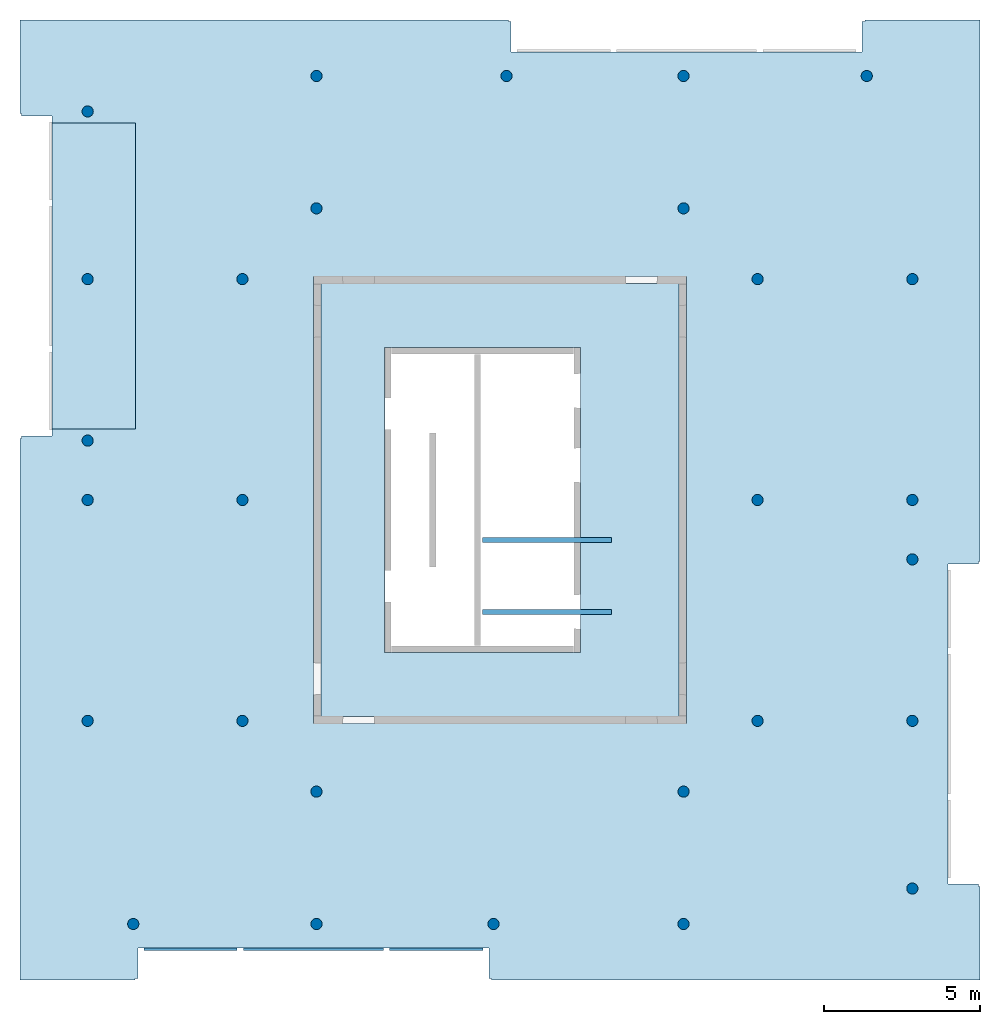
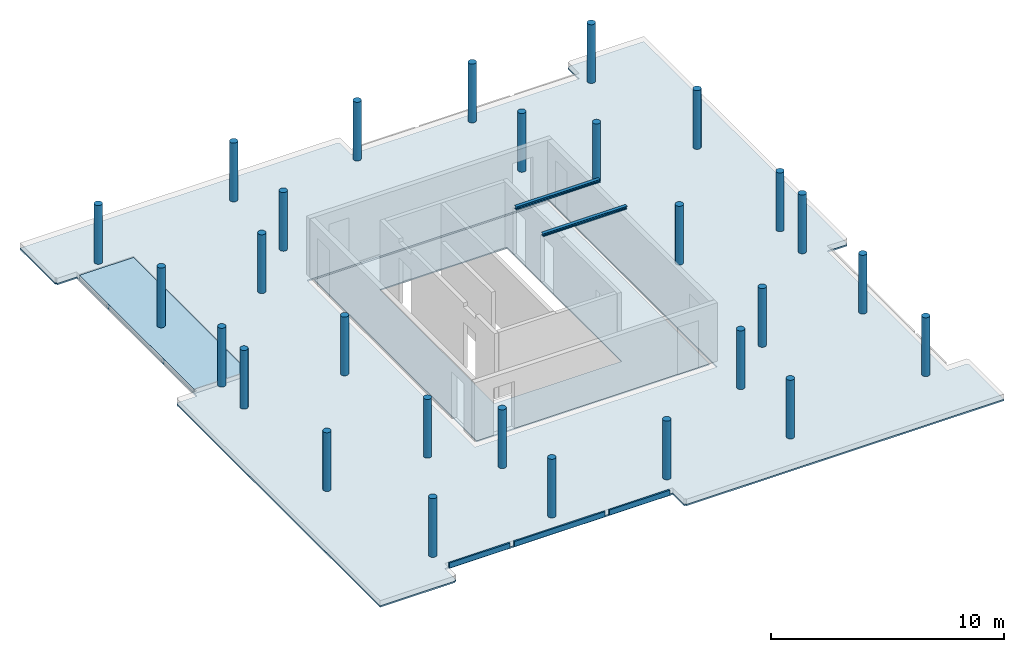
# One storey, part 1 of 3: 28 columns, 3 slabs, 3 walls, 2 beams, 2 openings.
"""IFC2X3 building model written with IfcOpenShell, lengths in millimetres."""

from ifc_helpers import new_model, entity, si_unit, converted_unit, derived_unit, direction, frame, frame_2d, origin, origin_2d_with_axis, place, context, subcontext, project, spatial, polyline, rectangle, circle, i_section, outline, extrude, source, transform, mapped, material, layer, layer_set, layer_usage, type_object, type_shapes, element, save


model = new_model("IFC2X3")

# Units and contexts
model_context = context("Model", 3, precision=0.01, world=origin(), true_north=direction((6.12303176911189e-17, 1.0)))
body_context = subcontext(model_context, "Body", "Model", "MODEL_VIEW")
ifc_project = project(units=[si_unit("LENGTHUNIT", "METRE", prefix="MILLI"), si_unit("AREAUNIT", "SQUARE_METRE"), si_unit("VOLUMEUNIT", "CUBIC_METRE"), converted_unit("PLANEANGLEUNIT", "DEGREE", entity("IfcRatioMeasure", 0.0174532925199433), si_unit("PLANEANGLEUNIT", "RADIAN"), dimensions=[0, 0, 0, 0, 0, 0, 0]), si_unit("MASSUNIT", "GRAM", prefix="KILO"), derived_unit("MASSDENSITYUNIT", [(si_unit("MASSUNIT", "GRAM", prefix="KILO"), 1), (si_unit("LENGTHUNIT", "METRE"), -3)]), si_unit("TIMEUNIT", "SECOND"), si_unit("FREQUENCYUNIT", "HERTZ"), si_unit("THERMODYNAMICTEMPERATUREUNIT", "DEGREE_CELSIUS"), derived_unit("THERMALTRANSMITTANCEUNIT", [(si_unit("MASSUNIT", "GRAM", prefix="KILO"), 1), (si_unit("THERMODYNAMICTEMPERATUREUNIT", "KELVIN"), -1), (si_unit("TIMEUNIT", "SECOND"), -3)]), derived_unit("VOLUMETRICFLOWRATEUNIT", [(si_unit("LENGTHUNIT", "METRE"), 3), (si_unit("TIMEUNIT", "SECOND"), -1)]), si_unit("ELECTRICCURRENTUNIT", "AMPERE"), si_unit("ELECTRICVOLTAGEUNIT", "VOLT"), si_unit("POWERUNIT", "WATT"), si_unit("FORCEUNIT", "NEWTON", prefix="KILO"), si_unit("ILLUMINANCEUNIT", "LUX"), si_unit("LUMINOUSFLUXUNIT", "LUMEN"), si_unit("LUMINOUSINTENSITYUNIT", "CANDELA"), derived_unit("USERDEFINED", [(si_unit("MASSUNIT", "GRAM", prefix="KILO"), -1), (si_unit("LENGTHUNIT", "METRE"), -2), (si_unit("TIMEUNIT", "SECOND"), 3), (si_unit("LUMINOUSFLUXUNIT", "LUMEN"), 1)]), derived_unit("LINEARVELOCITYUNIT", [(si_unit("LENGTHUNIT", "METRE"), 1), (si_unit("TIMEUNIT", "SECOND"), -1)]), si_unit("PRESSUREUNIT", "PASCAL"), derived_unit("USERDEFINED", [(si_unit("LENGTHUNIT", "METRE"), -2), (si_unit("MASSUNIT", "GRAM", prefix="KILO"), 1), (si_unit("TIMEUNIT", "SECOND"), -2)])], contexts=[model_context])

# Site, building, storey
site_placement = place(None, origin())
site = spatial("IfcSite", under=ifc_project, at=site_placement, Name="Default", CompositionType="ELEMENT")
building_placement = place(site_placement, origin())
building = spatial("IfcBuilding", under=site, at=building_placement, Name="niet gebruiken", CompositionType="ELEMENT")
storey_placement = place(building_placement, frame((0.0, 0.0, 171740.0)))
storey = spatial("IfcBuildingStorey", under=building, at=storey_placement, Name="55 vijfenvijftigste verdieping", CompositionType="ELEMENT", Elevation=171740.0)

# Columns
ifc_material_1 = material(Name="NLRS_f2_beton prefab")
column_type_1 = type_object("IfcColumnType", Name="ø360", PredefinedType="COLUMN", material=ifc_material_1)
shared_shape_1 = source(origin(), body_context, "Body", "SweptSolid", [
    extrude(circle(Radius=179.999999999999, at=origin_2d_with_axis()), frame((135850.0, 31130.0, 171670.0), z_axis=(0.0, 0.0, 1.0), x_axis=(0.0, -1.0, 0.0)), (0.0, 0.0, 1.0), 3070.0),
])
type_shapes(column_type_1, [shared_shape_1])
column_1_placement = place(storey_placement, frame((0.0, 0.0, -171740.0)))
element("IfcColumn", 1, at=column_1_placement, inside=storey, type_object=column_type_1, material=ifc_material_1, Name="NLRS_28. kolom rond_gen:ø360", ObjectType="ø360", context=body_context, shape_type="MappedRepresentation", body=[
    mapped(shared_shape_1, transform((0.0, 0.0, 0.0), scale=1.0)),
])
column_type_2 = type_object("IfcColumnType", Name="ø360", PredefinedType="COLUMN", material=ifc_material_1)
shared_shape_2 = source(origin(), body_context, "Body", "SweptSolid", [
    extrude(circle(Radius=179.999999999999, at=origin_2d_with_axis()), frame((141960.0, 31130.0, 171670.0), z_axis=(0.0, 0.0, 1.0), x_axis=(0.0, -1.0, 0.0)), (0.0, 0.0, 1.0), 3070.0),
])
type_shapes(column_type_2, [shared_shape_2])
column_2_placement = place(storey_placement, frame((0.0, 0.0, -171740.0)))
element("IfcColumn", 2, at=column_2_placement, inside=storey, type_object=column_type_2, material=ifc_material_1, Name="NLRS_28. kolom rond_gen:ø360", ObjectType="ø360", context=body_context, shape_type="MappedRepresentation", body=[
    mapped(shared_shape_2, transform((0.0, 0.0, 0.0), scale=1.0)),
])
column_type_3 = type_object("IfcColumnType", Name="ø360", PredefinedType="COLUMN", material=ifc_material_1)
shared_shape_3 = source(origin(), body_context, "Body", "SweptSolid", [
    extrude(circle(Radius=179.999999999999, at=origin_2d_with_axis()), frame((147650.0, 31130.0, 171670.0), z_axis=(0.0, 0.0, 1.0), x_axis=(0.0, -1.0, 0.0)), (0.0, 0.0, 1.0), 3070.0),
])
type_shapes(column_type_3, [shared_shape_3])
column_3_placement = place(storey_placement, frame((0.0, 0.0, -171740.0)))
element("IfcColumn", 3, at=column_3_placement, inside=storey, type_object=column_type_3, material=ifc_material_1, Name="NLRS_28. kolom rond_gen:ø360", ObjectType="ø360", context=body_context, shape_type="MappedRepresentation", body=[
    mapped(shared_shape_3, transform((0.0, 0.0, 0.0), scale=1.0)),
])
column_type_4 = type_object("IfcColumnType", Name="ø360", PredefinedType="COLUMN", material=ifc_material_1)
shared_shape_4 = source(origin(), body_context, "Body", "SweptSolid", [
    extrude(circle(Radius=179.999999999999, at=origin_2d_with_axis()), frame((153540.0, 31130.0, 171670.0), z_axis=(0.0, 0.0, 1.0), x_axis=(0.0, -1.0, 0.0)), (0.0, 0.0, 1.0), 3070.0),
])
type_shapes(column_type_4, [shared_shape_4])
column_4_placement = place(storey_placement, frame((0.0, 0.0, -171740.0)))
element("IfcColumn", 4, at=column_4_placement, inside=storey, type_object=column_type_4, material=ifc_material_1, Name="NLRS_28. kolom rond_gen:ø360", ObjectType="ø360", context=body_context, shape_type="MappedRepresentation", body=[
    mapped(shared_shape_4, transform((0.0, 0.0, 0.0), scale=1.0)),
])
column_type_5 = type_object("IfcColumnType", Name="ø360", PredefinedType="COLUMN", material=ifc_material_1)
shared_shape_5 = source(origin(), body_context, "Body", "SweptSolid", [
    extrude(circle(Radius=179.999999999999, at=origin_2d_with_axis()), frame((133470.0, 24600.0, 171670.0), z_axis=(0.0, 0.0, 1.0), x_axis=(0.0, -1.0, 0.0)), (0.0, 0.0, 1.0), 3070.0),
])
type_shapes(column_type_5, [shared_shape_5])
column_5_placement = place(storey_placement, frame((0.0, 0.0, -171740.0)))
element("IfcColumn", 5, at=column_5_placement, inside=storey, type_object=column_type_5, material=ifc_material_1, Name="NLRS_28. kolom rond_gen:ø360", ObjectType="ø360", context=body_context, shape_type="MappedRepresentation", body=[
    mapped(shared_shape_5, transform((0.0, 0.0, 0.0), scale=1.0)),
])
column_type_6 = type_object("IfcColumnType", Name="ø360", PredefinedType="COLUMN", material=ifc_material_1)
shared_shape_6 = source(origin(), body_context, "Body", "SweptSolid", [
    extrude(circle(Radius=179.999999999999, at=origin_2d_with_axis()), frame((128495.0, 24600.0, 171620.0), z_axis=(0.0, 0.0, 1.0), x_axis=(0.0, -1.0, 0.0)), (0.0, 0.0, 1.0), 3119.99999999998),
])
type_shapes(column_type_6, [shared_shape_6])
column_6_placement = place(storey_placement, frame((0.0, 0.0, -171740.0)))
element("IfcColumn", 6, at=column_6_placement, inside=storey, type_object=column_type_6, material=ifc_material_1, Name="NLRS_28. kolom rond_gen:ø360", ObjectType="ø360", context=body_context, shape_type="MappedRepresentation", body=[
    mapped(shared_shape_6, transform((0.0, 0.0, 0.0), scale=1.0)),
])
column_type_7 = type_object("IfcColumnType", Name="ø360", PredefinedType="COLUMN", material=ifc_material_1)
shared_shape_7 = source(origin(), body_context, "Body", "SweptSolid", [
    extrude(circle(Radius=179.999999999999, at=origin_2d_with_axis()), frame((155005.0, 24600.0, 171670.0), z_axis=(0.0, 0.0, 1.0), x_axis=(0.0, -1.0, 0.0)), (0.0, 0.0, 1.0), 3070.0),
])
type_shapes(column_type_7, [shared_shape_7])
column_7_placement = place(storey_placement, frame((0.0, 0.0, -171740.0)))
element("IfcColumn", 7, at=column_7_placement, inside=storey, type_object=column_type_7, material=ifc_material_1, Name="NLRS_28. kolom rond_gen:ø360", ObjectType="ø360", context=body_context, shape_type="MappedRepresentation", body=[
    mapped(shared_shape_7, transform((0.0, 0.0, 0.0), scale=1.0)),
])
column_type_8 = type_object("IfcColumnType", Name="ø360", PredefinedType="COLUMN", material=ifc_material_1)
shared_shape_8 = source(origin(), body_context, "Body", "SweptSolid", [
    extrude(circle(Radius=179.999999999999, at=origin_2d_with_axis()), frame((150030.0, 24600.0, 171670.0), z_axis=(0.0, 0.0, 1.0), x_axis=(0.0, -1.0, 0.0)), (0.0, 0.0, 1.0), 3070.0),
])
type_shapes(column_type_8, [shared_shape_8])
column_8_placement = place(storey_placement, frame((0.0, 0.0, -171740.0)))
element("IfcColumn", 8, at=column_8_placement, inside=storey, type_object=column_type_8, material=ifc_material_1, Name="NLRS_28. kolom rond_gen:ø360", ObjectType="ø360", context=body_context, shape_type="MappedRepresentation", body=[
    mapped(shared_shape_8, transform((0.0, 0.0, 0.0), scale=1.0)),
])
column_type_9 = type_object("IfcColumnType", Name="ø360", PredefinedType="COLUMN", material=ifc_material_1)
shared_shape_9 = source(origin(), body_context, "Body", "SweptSolid", [
    extrude(circle(Radius=179.999999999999, at=origin_2d_with_axis()), frame((147650.0, 26875.0, 171670.0), z_axis=(0.0, 0.0, 1.0), x_axis=(0.0, -1.0, 0.0)), (0.0, 0.0, 1.0), 3070.0),
])
type_shapes(column_type_9, [shared_shape_9])
column_9_placement = place(storey_placement, frame((0.0, 0.0, -171740.0)))
element("IfcColumn", 9, at=column_9_placement, inside=storey, type_object=column_type_9, material=ifc_material_1, Name="NLRS_28. kolom rond_gen:ø360", ObjectType="ø360", context=body_context, shape_type="MappedRepresentation", body=[
    mapped(shared_shape_9, transform((0.0, 0.0, 0.0), scale=1.0)),
])
column_type_10 = type_object("IfcColumnType", Name="ø360", PredefinedType="COLUMN", material=ifc_material_1)
shared_shape_10 = source(origin(), body_context, "Body", "SweptSolid", [
    extrude(circle(Radius=179.999999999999, at=origin_2d_with_axis()), frame((135850.0, 26875.0, 171670.0), z_axis=(0.0, 0.0, 1.0), x_axis=(0.0, -1.0, 0.0)), (0.0, 0.0, 1.0), 3070.0),
])
type_shapes(column_type_10, [shared_shape_10])
column_10_placement = place(storey_placement, frame((0.0, 0.0, -171740.0)))
element("IfcColumn", 10, at=column_10_placement, inside=storey, type_object=column_type_10, material=ifc_material_1, Name="NLRS_28. kolom rond_gen:ø360", ObjectType="ø360", context=body_context, shape_type="MappedRepresentation", body=[
    mapped(shared_shape_10, transform((0.0, 0.0, 0.0), scale=1.0)),
])
column_type_11 = type_object("IfcColumnType", Name="ø360", PredefinedType="COLUMN", material=ifc_material_1)
shared_shape_11 = source(origin(), body_context, "Body", "SweptSolid", [
    extrude(circle(Radius=180.0, at=origin_2d_with_axis()), frame((128495.0, 19410.0, 171670.0), z_axis=(0.0, 0.0, 1.0), x_axis=(0.0, -1.0, 0.0)), (0.0, 0.0, 1.0), 3070.0),
])
type_shapes(column_type_11, [shared_shape_11])
column_11_placement = place(storey_placement, frame((0.0, 0.0, -171740.0)))
element("IfcColumn", 11, at=column_11_placement, inside=storey, type_object=column_type_11, material=ifc_material_1, Name="NLRS_28. kolom rond_gen:ø360", ObjectType="ø360", context=body_context, shape_type="MappedRepresentation", body=[
    mapped(shared_shape_11, transform((0.0, 0.0, 0.0), scale=1.0)),
])
column_type_12 = type_object("IfcColumnType", Name="ø360", PredefinedType="COLUMN", material=ifc_material_1)
shared_shape_12 = source(origin(), body_context, "Body", "SweptSolid", [
    extrude(circle(Radius=180.0, at=origin_2d_with_axis()), frame((128495.0, 17500.0, 171670.0), z_axis=(0.0, 0.0, 1.0), x_axis=(0.0, -1.0, 0.0)), (0.0, 0.0, 1.0), 3070.0),
])
type_shapes(column_type_12, [shared_shape_12])
column_12_placement = place(storey_placement, frame((0.0, 0.0, -171740.0)))
element("IfcColumn", 12, at=column_12_placement, inside=storey, type_object=column_type_12, material=ifc_material_1, Name="NLRS_28. kolom rond_gen:ø360", ObjectType="ø360", context=body_context, shape_type="MappedRepresentation", body=[
    mapped(shared_shape_12, transform((0.0, 0.0, 0.0), scale=1.0)),
])
column_type_13 = type_object("IfcColumnType", Name="ø360", PredefinedType="COLUMN", material=ifc_material_1)
shared_shape_13 = source(origin(), body_context, "Body", "SweptSolid", [
    extrude(circle(Radius=180.0, at=origin_2d_with_axis()), frame((133470.0, 17500.0, 171670.0), z_axis=(0.0, 0.0, 1.0), x_axis=(0.0, -1.0, 0.0)), (0.0, 0.0, 1.0), 3070.0),
])
type_shapes(column_type_13, [shared_shape_13])
column_13_placement = place(storey_placement, frame((0.0, 0.0, -171740.0)))
element("IfcColumn", 13, at=column_13_placement, inside=storey, type_object=column_type_13, material=ifc_material_1, Name="NLRS_28. kolom rond_gen:ø360", ObjectType="ø360", context=body_context, shape_type="MappedRepresentation", body=[
    mapped(shared_shape_13, transform((0.0, 0.0, 0.0), scale=1.0)),
])
column_type_14 = type_object("IfcColumnType", Name="ø360", PredefinedType="COLUMN", material=ifc_material_1)
shared_shape_14 = source(origin(), body_context, "Body", "SweptSolid", [
    extrude(circle(Radius=180.0, at=origin_2d_with_axis()), frame((150030.0, 17500.0, 171670.0), z_axis=(0.0, 0.0, 1.0), x_axis=(0.0, -1.0, 0.0)), (0.0, 0.0, 1.0), 3070.0),
])
type_shapes(column_type_14, [shared_shape_14])
column_14_placement = place(storey_placement, frame((0.0, 0.0, -171740.0)))
element("IfcColumn", 14, at=column_14_placement, inside=storey, type_object=column_type_14, material=ifc_material_1, Name="NLRS_28. kolom rond_gen:ø360", ObjectType="ø360", context=body_context, shape_type="MappedRepresentation", body=[
    mapped(shared_shape_14, transform((0.0, 0.0, 0.0), scale=1.0)),
])
column_type_15 = type_object("IfcColumnType", Name="ø360", PredefinedType="COLUMN", material=ifc_material_1)
shared_shape_15 = source(origin(), body_context, "Body", "SweptSolid", [
    extrude(circle(Radius=180.0, at=origin_2d_with_axis()), frame((155005.0, 17500.0, 171670.0), z_axis=(0.0, 0.0, 1.0), x_axis=(0.0, -1.0, 0.0)), (0.0, 0.0, 1.0), 3070.0),
])
type_shapes(column_type_15, [shared_shape_15])
column_15_placement = place(storey_placement, frame((0.0, 0.0, -171740.0)))
element("IfcColumn", 15, at=column_15_placement, inside=storey, type_object=column_type_15, material=ifc_material_1, Name="NLRS_28. kolom rond_gen:ø360", ObjectType="ø360", context=body_context, shape_type="MappedRepresentation", body=[
    mapped(shared_shape_15, transform((0.0, 0.0, 0.0), scale=1.0)),
])
column_type_16 = type_object("IfcColumnType", Name="ø360", PredefinedType="COLUMN", material=ifc_material_1)
shared_shape_16 = source(origin(), body_context, "Body", "SweptSolid", [
    extrude(circle(Radius=180.0, at=origin_2d_with_axis()), frame((155005.0, 15590.0, 171670.0), z_axis=(0.0, 0.0, 1.0), x_axis=(0.0, -1.0, 0.0)), (0.0, 0.0, 1.0), 3070.0),
])
type_shapes(column_type_16, [shared_shape_16])
column_16_placement = place(storey_placement, frame((0.0, 0.0, -171740.0)))
element("IfcColumn", 16, at=column_16_placement, inside=storey, type_object=column_type_16, material=ifc_material_1, Name="NLRS_28. kolom rond_gen:ø360", ObjectType="ø360", context=body_context, shape_type="MappedRepresentation", body=[
    mapped(shared_shape_16, transform((0.0, 0.0, 0.0), scale=1.0)),
])
column_type_17 = type_object("IfcColumnType", Name="ø360", PredefinedType="COLUMN", material=ifc_material_1)
shared_shape_17 = source(origin(), body_context, "Body", "SweptSolid", [
    extrude(circle(Radius=180.0, at=origin_2d_with_axis()), frame((155005.0, 10400.0, 171670.0), z_axis=(0.0, 0.0, 1.0), x_axis=(0.0, -1.0, 0.0)), (0.0, 0.0, 1.0), 3070.0),
])
type_shapes(column_type_17, [shared_shape_17])
column_17_placement = place(storey_placement, frame((0.0, 0.0, -171740.0)))
element("IfcColumn", 17, at=column_17_placement, inside=storey, type_object=column_type_17, material=ifc_material_1, Name="NLRS_28. kolom rond_gen:ø360", ObjectType="ø360", context=body_context, shape_type="MappedRepresentation", body=[
    mapped(shared_shape_17, transform((0.0, 0.0, 0.0), scale=1.0)),
])
column_type_18 = type_object("IfcColumnType", Name="ø360", PredefinedType="COLUMN", material=ifc_material_1)
shared_shape_18 = source(origin(), body_context, "Body", "SweptSolid", [
    extrude(circle(Radius=180.0, at=origin_2d_with_axis()), frame((150030.0, 10400.0, 171670.0), z_axis=(0.0, 0.0, 1.0), x_axis=(0.0, -1.0, 0.0)), (0.0, 0.0, 1.0), 3070.0),
])
type_shapes(column_type_18, [shared_shape_18])
column_18_placement = place(storey_placement, frame((0.0, 0.0, -171740.0)))
element("IfcColumn", 18, at=column_18_placement, inside=storey, type_object=column_type_18, material=ifc_material_1, Name="NLRS_28. kolom rond_gen:ø360", ObjectType="ø360", context=body_context, shape_type="MappedRepresentation", body=[
    mapped(shared_shape_18, transform((0.0, 0.0, 0.0), scale=1.0)),
])
column_type_19 = type_object("IfcColumnType", Name="ø360", PredefinedType="COLUMN", material=ifc_material_1)
shared_shape_19 = source(origin(), body_context, "Body", "SweptSolid", [
    extrude(circle(Radius=180.0, at=origin_2d_with_axis()), frame((133470.0, 10400.0, 171670.0), z_axis=(0.0, 0.0, 1.0), x_axis=(0.0, -1.0, 0.0)), (0.0, 0.0, 1.0), 3070.0),
])
type_shapes(column_type_19, [shared_shape_19])
column_19_placement = place(storey_placement, frame((0.0, 0.0, -171740.0)))
element("IfcColumn", 19, at=column_19_placement, inside=storey, type_object=column_type_19, material=ifc_material_1, Name="NLRS_28. kolom rond_gen:ø360", ObjectType="ø360", context=body_context, shape_type="MappedRepresentation", body=[
    mapped(shared_shape_19, transform((0.0, 0.0, 0.0), scale=1.0)),
])
column_type_20 = type_object("IfcColumnType", Name="ø360", PredefinedType="COLUMN", material=ifc_material_1)
shared_shape_20 = source(origin(), body_context, "Body", "SweptSolid", [
    extrude(circle(Radius=180.0, at=origin_2d_with_axis()), frame((128495.0, 10400.0, 171670.0), z_axis=(0.0, 0.0, 1.0), x_axis=(0.0, -1.0, 0.0)), (0.0, 0.0, 1.0), 3070.0),
])
type_shapes(column_type_20, [shared_shape_20])
column_20_placement = place(storey_placement, frame((0.0, 0.0, -171740.0)))
element("IfcColumn", 20, at=column_20_placement, inside=storey, type_object=column_type_20, material=ifc_material_1, Name="NLRS_28. kolom rond_gen:ø360", ObjectType="ø360", context=body_context, shape_type="MappedRepresentation", body=[
    mapped(shared_shape_20, transform((0.0, 0.0, 0.0), scale=1.0)),
])
column_type_21 = type_object("IfcColumnType", Name="ø360", PredefinedType="COLUMN", material=ifc_material_1)
shared_shape_21 = source(origin(), body_context, "Body", "SweptSolid", [
    extrude(circle(Radius=180.0, at=origin_2d_with_axis()), frame((147650.0, 8125.0, 171670.0), z_axis=(0.0, 0.0, 1.0), x_axis=(0.0, -1.0, 0.0)), (0.0, 0.0, 1.0), 3070.0),
])
type_shapes(column_type_21, [shared_shape_21])
column_21_placement = place(storey_placement, frame((0.0, 0.0, -171740.0)))
element("IfcColumn", 21, at=column_21_placement, inside=storey, type_object=column_type_21, material=ifc_material_1, Name="NLRS_28. kolom rond_gen:ø360", ObjectType="ø360", context=body_context, shape_type="MappedRepresentation", body=[
    mapped(shared_shape_21, transform((0.0, 0.0, 0.0), scale=1.0)),
])
column_type_22 = type_object("IfcColumnType", Name="ø360", PredefinedType="COLUMN", material=ifc_material_1)
shared_shape_22 = source(origin(), body_context, "Body", "SweptSolid", [
    extrude(circle(Radius=180.0, at=origin_2d_with_axis()), frame((135850.0, 8125.0, 171670.0), z_axis=(0.0, 0.0, 1.0), x_axis=(0.0, -1.0, 0.0)), (0.0, 0.0, 1.0), 3070.0),
])
type_shapes(column_type_22, [shared_shape_22])
column_22_placement = place(storey_placement, frame((0.0, 0.0, -171740.0)))
element("IfcColumn", 22, at=column_22_placement, inside=storey, type_object=column_type_22, material=ifc_material_1, Name="NLRS_28. kolom rond_gen:ø360", ObjectType="ø360", context=body_context, shape_type="MappedRepresentation", body=[
    mapped(shared_shape_22, transform((0.0, 0.0, 0.0), scale=1.0)),
])
column_type_23 = type_object("IfcColumnType", Name="ø360", PredefinedType="COLUMN", material=ifc_material_1)
shared_shape_23 = source(origin(), body_context, "Body", "SweptSolid", [
    extrude(circle(Radius=180.0, at=frame_2d((5.41433564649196e-13, 0.0), x_axis=(1.0, 0.0))), frame((147650.0, 3870.0, 171670.0), z_axis=(0.0, 0.0, 1.0), x_axis=(0.0, -1.0, 0.0)), (0.0, 0.0, 1.0), 3070.0),
])
type_shapes(column_type_23, [shared_shape_23])
column_23_placement = place(storey_placement, frame((0.0, 0.0, -171740.0)))
element("IfcColumn", 23, at=column_23_placement, inside=storey, type_object=column_type_23, material=ifc_material_1, Name="NLRS_28. kolom rond_gen:ø360", ObjectType="ø360", context=body_context, shape_type="MappedRepresentation", body=[
    mapped(shared_shape_23, transform((0.0, 0.0, 0.0), scale=1.0)),
])
column_type_24 = type_object("IfcColumnType", Name="ø360", PredefinedType="COLUMN", material=ifc_material_1)
shared_shape_24 = source(origin(), body_context, "Body", "SweptSolid", [
    extrude(circle(Radius=180.0, at=frame_2d((5.41433564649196e-13, 0.0), x_axis=(1.0, 0.0))), frame((141540.0, 3870.0, 171670.0), z_axis=(0.0, 0.0, 1.0), x_axis=(0.0, -1.0, 0.0)), (0.0, 0.0, 1.0), 3070.0),
])
type_shapes(column_type_24, [shared_shape_24])
column_24_placement = place(storey_placement, frame((0.0, 0.0, -171740.0)))
element("IfcColumn", 24, at=column_24_placement, inside=storey, type_object=column_type_24, material=ifc_material_1, Name="NLRS_28. kolom rond_gen:ø360", ObjectType="ø360", context=body_context, shape_type="MappedRepresentation", body=[
    mapped(shared_shape_24, transform((0.0, 0.0, 0.0), scale=1.0)),
])
column_type_25 = type_object("IfcColumnType", Name="ø360", PredefinedType="COLUMN", material=ifc_material_1)
shared_shape_25 = source(origin(), body_context, "Body", "SweptSolid", [
    extrude(circle(Radius=180.0, at=frame_2d((5.41433564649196e-13, 0.0), x_axis=(1.0, 0.0))), frame((135850.0, 3870.0, 171670.0), z_axis=(0.0, 0.0, 1.0), x_axis=(0.0, -1.0, 0.0)), (0.0, 0.0, 1.0), 3070.0),
])
type_shapes(column_type_25, [shared_shape_25])
column_25_placement = place(storey_placement, frame((0.0, 0.0, -171740.0)))
element("IfcColumn", 25, at=column_25_placement, inside=storey, type_object=column_type_25, material=ifc_material_1, Name="NLRS_28. kolom rond_gen:ø360", ObjectType="ø360", context=body_context, shape_type="MappedRepresentation", body=[
    mapped(shared_shape_25, transform((0.0, 0.0, 0.0), scale=1.0)),
])
column_type_26 = type_object("IfcColumnType", Name="ø360", PredefinedType="COLUMN", material=ifc_material_1)
shared_shape_26 = source(origin(), body_context, "Body", "SweptSolid", [
    extrude(circle(Radius=180.0, at=origin_2d_with_axis()), frame((129960.0, 3870.0, 171670.0), z_axis=(0.0, 0.0, 1.0), x_axis=(0.0, -1.0, 0.0)), (0.0, 0.0, 1.0), 3070.0),
])
type_shapes(column_type_26, [shared_shape_26])
column_26_placement = place(storey_placement, frame((0.0, 0.0, -171740.0)))
element("IfcColumn", 26, at=column_26_placement, inside=storey, type_object=column_type_26, material=ifc_material_1, Name="NLRS_28. kolom rond_gen:ø360", ObjectType="ø360", context=body_context, shape_type="MappedRepresentation", body=[
    mapped(shared_shape_26, transform((0.0, 0.0, 0.0), scale=1.0)),
])
column_type_27 = type_object("IfcColumnType", Name="ø360", PredefinedType="COLUMN", material=ifc_material_1)
shared_shape_27 = source(origin(), body_context, "Body", "SweptSolid", [
    extrude(circle(Radius=180.0, at=origin_2d_with_axis()), frame((155005.0, 5010.0, 171670.0), z_axis=(0.0, 0.0, 1.0), x_axis=(0.0, -1.0, 0.0)), (0.0, 0.0, 1.0), 3070.0),
])
type_shapes(column_type_27, [shared_shape_27])
column_27_placement = place(storey_placement, frame((0.0, 0.0, -171740.0)))
element("IfcColumn", 27, at=column_27_placement, inside=storey, type_object=column_type_27, material=ifc_material_1, Name="NLRS_28. kolom rond_gen:ø360", ObjectType="ø360", context=body_context, shape_type="MappedRepresentation", body=[
    mapped(shared_shape_27, transform((0.0, 0.0, 0.0), scale=1.0)),
])
column_type_28 = type_object("IfcColumnType", Name="ø360", PredefinedType="COLUMN", material=ifc_material_1)
shared_shape_28 = source(origin(), body_context, "Body", "SweptSolid", [
    extrude(circle(Radius=179.999999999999, at=origin_2d_with_axis()), frame((128495.0, 29990.0, 171670.0), z_axis=(0.0, 0.0, 1.0), x_axis=(0.0, -1.0, 0.0)), (0.0, 0.0, 1.0), 3070.0),
])
type_shapes(column_type_28, [shared_shape_28])
column_28_placement = place(storey_placement, frame((0.0, 0.0, -171740.0)))
element("IfcColumn", 28, at=column_28_placement, inside=storey, type_object=column_type_28, material=ifc_material_1, Name="NLRS_28. kolom rond_gen:ø360", ObjectType="ø360", context=body_context, shape_type="MappedRepresentation", body=[
    mapped(shared_shape_28, transform((0.0, 0.0, 0.0), scale=1.0)),
])

# Beams
ifc_material_2 = material(Name="NLRS_h2_staal")
beam_type = type_object("IfcBeamType", Name="NLRS_28.11_SF_WPB_stalen ligger HEA_gen:ligger HEA 160", PredefinedType="BEAM")
beam_1_placement = place(storey_placement, frame((141180.0, 16215.0, 6760.0)))
element("IfcBeam", 29, at=beam_1_placement, inside=storey, type_object=beam_type, material=ifc_material_2, Name="NLRS_28.11_SF_WPB_stalen ligger HEA_gen:ligger HEA 160", ObjectType="NLRS_28.11_SF_WPB_stalen ligger HEA_gen:ligger HEA 160", context=body_context, shape_type="SweptSolid", body=[
    extrude(i_section(OverallWidth=160.000000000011, OverallDepth=152.000000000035, WebThickness=5.99999999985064, FlangeThickness=9.00000000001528, FilletRadius=15.0000000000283, at=frame_2d((3.46531692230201e-11, -3.24718030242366e-12), x_axis=(0.0, 1.0))), frame((0.0, 0.0, -76.0), z_axis=(1.0, 0.0, 0.0), x_axis=(0.0, 0.0, -1.0)), (0.0, 0.0, 1.0), 4150.00000000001),
])
beam_2_placement = place(storey_placement, frame((141180.0, 13905.0, 6760.0)))
element("IfcBeam", 30, at=beam_2_placement, inside=storey, type_object=beam_type, material=ifc_material_2, Name="NLRS_28.11_SF_WPB_stalen ligger HEA_gen:ligger HEA 160", ObjectType="NLRS_28.11_SF_WPB_stalen ligger HEA_gen:ligger HEA 160", context=body_context, shape_type="SweptSolid", body=[
    extrude(i_section(OverallWidth=160.000000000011, OverallDepth=152.000000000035, WebThickness=5.99999999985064, FlangeThickness=9.00000000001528, FilletRadius=15.0000000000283, at=frame_2d((-3.46531692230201e-11, 1.08713038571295e-12), x_axis=(0.0, 1.0))), frame((0.0, 0.0, -76.0), z_axis=(1.0, 0.0, 0.0), x_axis=(0.0, 0.0, -1.0)), (0.0, 0.0, 1.0), 4150.00000000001),
])

# Slab
ifc_material_3 = material(Name="NLRS_f2_beton ihwg")
ifc_layer_1 = layer(ifc_material_3, 300.0)
ifc_layer_set_1 = layer_set([ifc_layer_1], Name="Floor:NLRS_23.21_FL_vloer d=300_gen")
ifc_layer_usage_1 = layer_usage(ifc_layer_set_1, "AXIS3", "POSITIVE", 0.0)
slab_1_placement = place(storey_placement, origin())
element("IfcSlab", 31, at=slab_1_placement, inside=storey, material=ifc_layer_usage_1, Name="Floor:NLRS_23.21_FL_vloer d=300_gen", ObjectType="Floor:NLRS_23.21_FL_vloer d=300_gen", PredefinedType="FLOOR", context=body_context, shape_type="SweptSolid", body=[
    extrude(rectangle(XDim=9840.0, YDim=2685.00000000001, at=frame_2d((0.0, -8.64019966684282e-12), x_axis=(1.0, 0.0))), frame((128687.5, 24700.0, -140.0), z_axis=(0.0, 0.0, -1.0), x_axis=(0.0, 1.0, 0.0)), (0.0, 0.0, 1.0), 219.999999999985),
])

# Slab, opening
ifc_layer_2 = layer(ifc_material_1, 80.0)
ifc_layer_set_2 = layer_set([ifc_layer_2], Name="Floor:NLRS_23.21_FL_breedplaat d=80_gen")
ifc_layer_usage_2 = layer_usage(ifc_layer_set_2, "AXIS3", "POSITIVE", 0.0)
slab_2_placement = place(storey_placement, frame((126320.0, 2070.0, -440.0)))
slab_2 = element("IfcSlab", 32, at=slab_2_placement, inside=storey, material=ifc_layer_usage_2, Name="Floor:NLRS_23.21_FL_breedplaat d=80_gen", ObjectType="Floor:NLRS_23.21_FL_breedplaat d=80_gen", PredefinedType="FLOOR", context=body_context, shape_type="SweptSolid", body=[
    extrude(outline(polyline([(14405.0, 2060.0), (14405.0, 12340.0), (15380.0, 12340.0), (15380.0, 12426.0), (15430.0, 12426.0), (15430.0, 15430.0), (-274.0, 15430.0), (-274.0, 15380.0), (-360.0, 15380.0), (-360.0, 14405.0), (-11640.0, 14405.0), (-11640.0, 15380.0), (-11726.0, 15380.0), (-11726.0, 15430.0), (-15430.0, 15430.0), (-15430.0, -1974.0), (-15380.0, -1974.0), (-15380.0, -2060.0), (-14405.0, -2060.0), (-14405.0, -12340.0), (-15380.0, -12340.0), (-15380.0, -12426.0), (-15430.0, -12426.0), (-15430.0, -15430.0), (274.0, -15430.0), (274.0, -15380.0), (360.0, -15380.0), (360.0, -14405.0), (11640.0, -14405.0), (11640.0, -15380.0), (11726.0, -15380.0), (11726.0, -15430.0), (15430.0, -15430.0), (15430.0, 1974.0), (15380.0, 1974.0), (15380.0, 2060.0), (14405.0, 2060.0)])), frame((15430.0, 15430.0, 80.0), z_axis=(0.0, 0.0, -1.0), x_axis=(-1.0, 0.0, 0.0)), (0.0, 0.0, 1.0), 80.0000000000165),
])
opening_1_placement = place(slab_2_placement, frame((15430.0, 15430.0, 80.0)))
element("IfcOpeningElement", 33, at=opening_1_placement, cuts=slab_2, Name="Floor:NLRS_23.21_FL_breedplaat d=80_gen:2", ObjectType="Opening", context=body_context, shape_type="SweptSolid", body=[
    extrude(rectangle(XDim=14379.9999999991, YDim=11980.0000000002, at=origin_2d_with_axis()), frame((0.0, 0.0, 0.0), z_axis=(0.0, 0.0, -1.0), x_axis=(0.0, -1.0, 0.0)), (0.0, 0.0, 1.0), 80.0000000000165),
])

ifc_layer_3 = layer(ifc_material_1, 60.0)
ifc_layer_set_3 = layer_set([ifc_layer_3], Name="Floor:NLRS_23.21_FL_breedplaat d=60_gen")
ifc_layer_usage_3 = layer_usage(ifc_layer_set_3, "AXIS3", "POSITIVE", 0.0)
slab_3_placement = place(storey_placement, frame((135990.0, 10540.0, -320.0)))
slab_3 = element("IfcSlab", 34, at=slab_3_placement, inside=storey, material=ifc_layer_usage_3, Name="Floor:NLRS_23.21_FL_breedplaat d=60_gen", ObjectType="Floor:NLRS_23.21_FL_breedplaat d=60_gen", PredefinedType="FLOOR", context=body_context, shape_type="SweptSolid", body=[
    extrude(rectangle(XDim=13919.9999999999, YDim=11520.0, at=frame_2d((0.0, 0.0), x_axis=(0.0, -1.0))), frame((5760.0, 6960.0, 60.0), z_axis=(0.0, 0.0, -1.0), x_axis=(-1.0, 0.0, 0.0)), (0.0, 0.0, 1.0), 59.9999999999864),
])
opening_2_placement = place(slab_3_placement, frame((5200.0, 6960.0, 60.0)))
element("IfcOpeningElement", 35, at=opening_2_placement, cuts=slab_3, Name="Floor:NLRS_23.21_FL_breedplaat d=60_gen:2", ObjectType="Opening", context=body_context, shape_type="SweptSolid", body=[
    extrude(rectangle(XDim=9820.0, YDim=6299.99999999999, at=origin_2d_with_axis()), frame((0.0, 0.0, 0.0), z_axis=(0.0, 0.0, -1.0), x_axis=(0.0, -1.0, 0.0)), (0.0, 0.0, 1.0), 59.9999999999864),
])

# Walls
ifc_material_4 = material(Name="NLRS_a_isolatie")
ifc_layer_4 = layer(ifc_material_4, 80.0)
ifc_layer_set_4 = layer_set([ifc_layer_4], Name="Basic Wall:NLRS_21.10_WA_isokorf d=80_gen")
ifc_layer_usage_4 = layer_usage(ifc_layer_set_4, "AXIS2", "NEGATIVE", 40.0)
wall_type = type_object("IfcWallType", Name="Basic Wall:NLRS_21.10_WA_isokorf d=80_gen", PredefinedType="STANDARD", material=ifc_layer_set_4)
wall_1_placement = place(storey_placement, frame((138000.0, 3055.0, -360.0), z_axis=(0.0, 0.0, 1.0), x_axis=(-1.0, 0.0, 0.0)))
element("IfcWallStandardCase", 36, at=wall_1_placement, inside=storey, type_object=wall_type, material=ifc_layer_usage_4, Name="Basic Wall:NLRS_21.10_WA_isokorf d=80_gen", ObjectType="Basic Wall:NLRS_21.10_WA_isokorf d=80_gen", context=body_context, shape_type="SweptSolid", body=[
    extrude(rectangle(XDim=4500.00000000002, YDim=80.0000000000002, at=frame_2d((2250.00000000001, 7.8159700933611e-14), x_axis=(-1.0, 0.0))), origin(), (0.0, 0.0, 1.0), 269.999999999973),
])
ifc_layer_usage_5 = layer_usage(ifc_layer_set_4, "AXIS2", "NEGATIVE", 40.0)
wall_2_placement = place(storey_placement, frame((133300.0, 3055.0, -360.0), z_axis=(0.0, 0.0, 1.0), x_axis=(-1.0, 0.0, 0.0)))
element("IfcWallStandardCase", 37, at=wall_2_placement, inside=storey, type_object=wall_type, material=ifc_layer_usage_5, Name="Basic Wall:NLRS_21.10_WA_isokorf d=80_gen", ObjectType="Basic Wall:NLRS_21.10_WA_isokorf d=80_gen", context=body_context, shape_type="SweptSolid", body=[
    extrude(rectangle(XDim=2999.99999999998, YDim=80.0000000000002, at=frame_2d((1499.99999999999, -3.90798504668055e-14), x_axis=(-1.0, 0.0))), origin(), (0.0, 0.0, 1.0), 269.999999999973),
])
ifc_layer_usage_6 = layer_usage(ifc_layer_set_4, "AXIS2", "NEGATIVE", 40.0)
wall_3_placement = place(storey_placement, frame((141200.0, 3055.0, -360.0), z_axis=(0.0, 0.0, 1.0), x_axis=(-1.0, 0.0, 0.0)))
element("IfcWallStandardCase", 38, at=wall_3_placement, inside=storey, type_object=wall_type, material=ifc_layer_usage_6, Name="Basic Wall:NLRS_21.10_WA_isokorf d=80_gen", ObjectType="Basic Wall:NLRS_21.10_WA_isokorf d=80_gen", context=body_context, shape_type="SweptSolid", body=[
    extrude(rectangle(XDim=2999.99999999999, YDim=80.0000000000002, at=frame_2d((1500.0, -3.90798504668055e-14), x_axis=(-1.0, 0.0))), origin(), (0.0, 0.0, 1.0), 269.999999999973),
])

save(model, "model.ifc")
